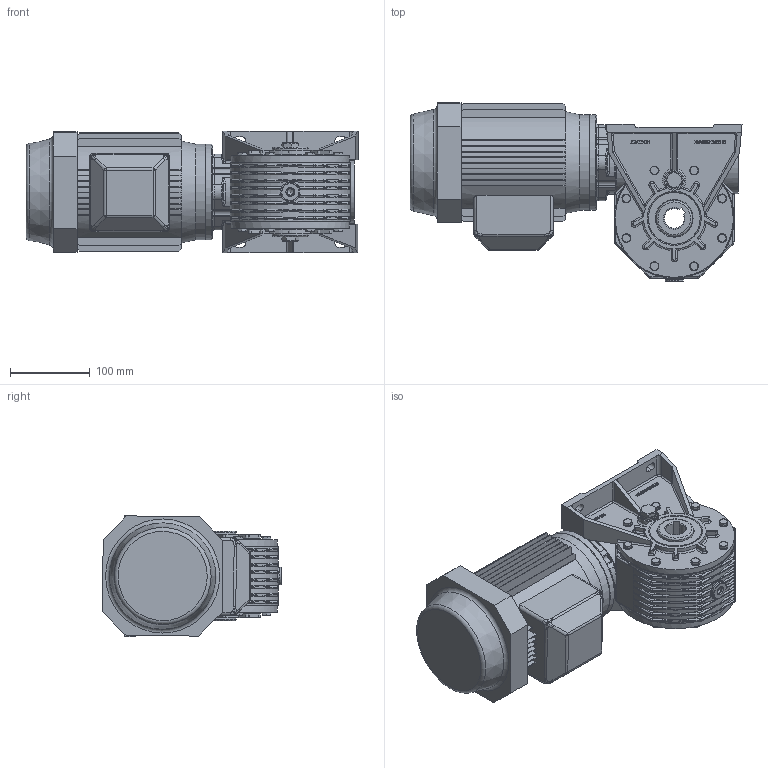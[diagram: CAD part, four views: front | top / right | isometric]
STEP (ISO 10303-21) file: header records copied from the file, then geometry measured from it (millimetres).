
FILE_DESCRIPTION((''),'2;1');
FILE_NAME('Y:\Archivi Inventor\Prog_01\GRAND_30\Figurini\MRV30 sito\80\MRV30_P1_80_B14.stp','2013-02-06T10:08:51',('tech3'),(''),'Autodesk Inventor 2013','Autodesk Inventor 2013','');
FILE_SCHEMA(('AUTOMOTIVE_DESIGN { 1 0 10303 214 1 1 1 1 }'));
Length unit declared in the file: millimetre
Products named in the file (16): MRV30_80_B14; MRV30; 0103001-A2 fig; 0103008.A1 fig F=25; PARAOLIO 45x65x10; RCA_52x7; Guarnizione 3_8 GAS; Tappo 3_8 GAS_esagn_incsst; 0103010-A0 fig; 0103029; DIN EN 24017 M6 x 20; Tappo3_8 GAS; 0103028; UNI 5931 M 8 x  25; 0103006; motori B14 80
Assembly tree (41 placements, depth 3):
  MRV30_80_B14
    MRV30
      0103001-A2 fig
      0103008.A1 fig F=25
      PARAOLIO 45x65x10  x2
      RCA_52x7
      Guarnizione 3_8 GAS  x4
      Tappo 3_8 GAS_esagn_incsst  x2
      0103010-A0 fig  x2
      0103029  x2
      DIN EN 24017 M6 x 20  x16
      Tappo3_8 GAS  x2
      0103028
      UNI 5931 M 8 x  25  x4
    0103006
    motori B14 80
Bounding box: 416.5 x 224.43 x 152.7 mm (x, y, z)
Volume: 5646439.9 mm3; surface area: 719798.8 mm2
Topology: 40 solids, 43 shells, 2559 faces, 6313 edges, 3906 vertices
Faces by surface type: plane 1286, cylinder 626, bspline 300, cone 174, torus 141, sphere 32
Full cylindrical faces by diameter (mm): 2 x2, 4.917 x20, 6 x16, 6.5 x32, 6.647 x4, 7 x4, 8 x6, 8.5 x8, 8.88 x16, 11 x16, 13 x8, 13.046 x2, 14.95 x4, 16.3 x4, 16.5 x2, 19 x1, 22 x8, 25 x3, 43 x1, 45 x4, 45.76 x1, 50.881 x2, 52 x6, 55 x1, 60.5 x2, 65 x4, 75 x2, 77 x1, 78 x1, 80 x1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
Entity records: 58229 total; most frequent: CARTESIAN_POINT 18489, ORIENTED_EDGE 7964, DIRECTION 7766, EDGE_CURVE 3982, AXIS2_PLACEMENT_3D 2802, VERTEX_POINT 2569, VECTOR 2162, LINE 2162
